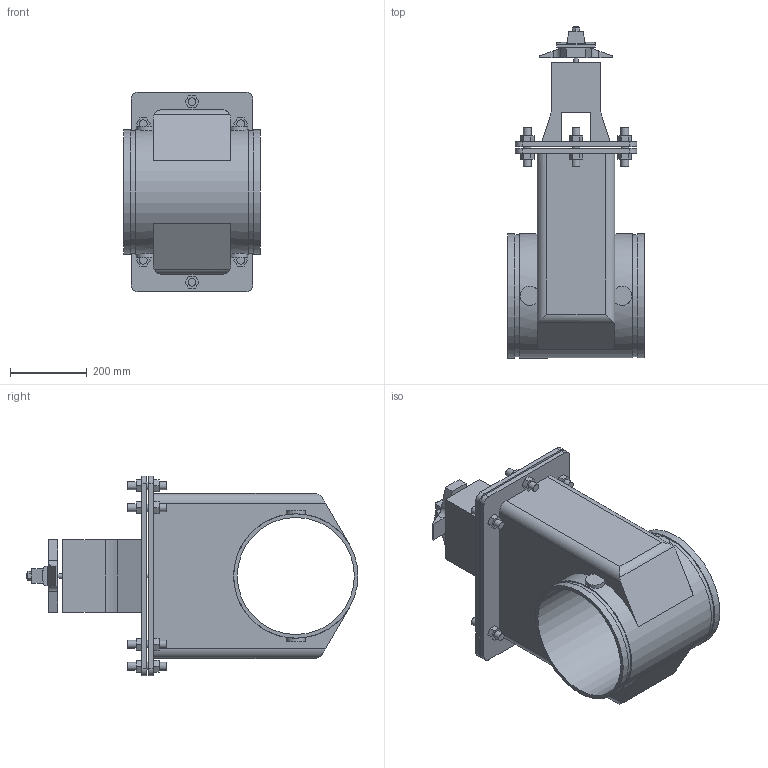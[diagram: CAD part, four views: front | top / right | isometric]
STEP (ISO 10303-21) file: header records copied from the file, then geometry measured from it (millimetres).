
FILE_DESCRIPTION(/* description */ ('VIC GATE VALVE SERIES 772H NRS','CAx-IF Rec.Pracs.---Representation and Presentation of Product Manufacturing Information (PMI)---4.0---2014-10-13'),/* implementation_level */ '2;1');
FILE_NAME(/* name */ 'C:\Users\Vjadhav\AppData\Roaming\Autodesk\ApplicationPlugins\Back Up\Victaulic_FP-FireLock_Valve Gate NRS_Series 772H (OGS)\Victaulic_FP-FireLock_Valve Gate NRS_Series 772H (OGS)_12 (300).stp',/* time_stamp */ '2020-07-20T15:49:43+05:00',/* author */ ('kkamble'),/* organization */ ('Victaulic'),/* preprocessor_version */ 'ST-DEVELOPER v17.2',/* originating_system */ 'Autodesk Inventor 2019',/* authorisation */ '');
FILE_SCHEMA (('AP242_MANAGED_MODEL_BASED_3D_ENGINEERING_MIM_LF { 1 0 10303 442 1 1 4 }'));
Length unit declared in the file: inch
Products named in the file (1): 772H-12.0
Bounding box: 356.01 x 865 x 519.94 mm (x, y, z)
Volume: 38628945.9 mm3; surface area: 1929377.3 mm2
Topology: 1 solids, 1 shells, 221 faces, 551 edges, 371 vertices
Faces by surface type: plane 168, cylinder 53
Full cylindrical faces by diameter (mm): 12.7 x4, 20.32 x18, 304.8 x1, 318.287 x2, 323.85 x3
Entity records: 7185 total; most frequent: CARTESIAN_POINT 1377, DIRECTION 1138, ORIENTED_EDGE 1102, EDGE_CURVE 551, LINE 426, VECTOR 426, VERTEX_POINT 371, AXIS2_PLACEMENT_3D 356
